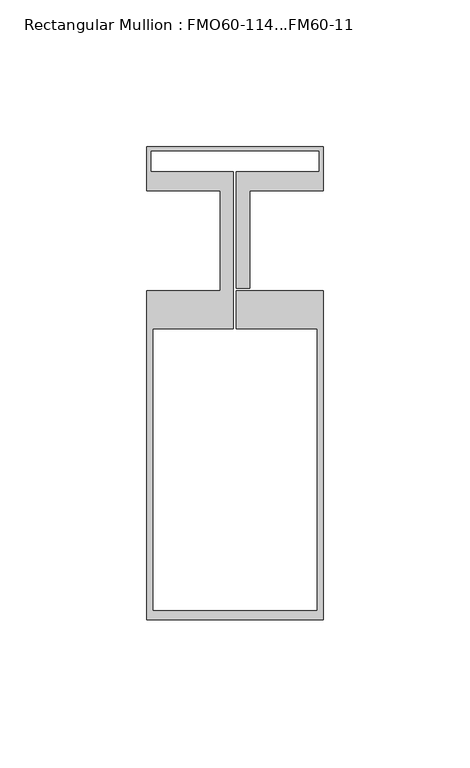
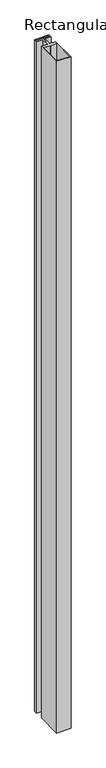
"""IFC4 building model written with IfcOpenShell, lengths in millimetres: member geometry, Rectangular Mullion : FMO60-114...FM60-11."""

from ifc_helpers import new_model, si_unit, frame, origin, place, context, project, spatial, polyline, outline, extrude, source, transform, mapped, element, save


def rectangular_mullion_fmo60_114_fm60_11_d209c6d5(model_context):
    return source(origin(), model_context, "Body", "SweptSolid", [
        extrude(outline(polyline([(-30.0, -16.9999262), (-4.9995097, -16.9999262), (-4.9995097, 17.0000738), (-30.0, 17.0000738), (-30.0, 32.0039178), (30.0, 32.0039178), (30.0, 17.0000738), (5.0004903, 17.0000738), (5.0004903, -16.1999262), (0.5, -16.1999262), (0.5, 23.4439819), (28.7000412, 23.4439819), (28.7000412, 30.7039178), (-28.7000412, 30.7039178), (-28.7000412, 23.4439819), (-0.5, 23.4439819), (-0.5, -29.9945061), (-28.0, -29.9945061), (-28.0, -126.0079738), (28.0, -126.0079738), (28.0, -29.9945061), (0.5, -29.9945061), (0.5, -16.9999262), (30.0, -16.9999262), (30.0, -129.0079738), (-30.0, -129.0079738), (-30.0, -16.9999262)])), frame((0.0, 0.0, -3000.0), z_axis=(0.0, 0.0, 1.0), x_axis=(1.0, 0.0, 0.0)), (0.0, 0.0, 1.0), 3000.0),
    ])


if __name__ == "__main__":
    model = new_model("IFC4")
    model_context = context("Model", 3, world=origin())
    ifc_project = project(units=[si_unit("LENGTHUNIT", "METRE", prefix="MILLI")], contexts=[model_context])
    site = spatial("IfcSite", under=ifc_project)
    building = spatial("IfcBuilding", under=site)
    placement = place(None, origin())
    rectangular_mullion_fmo60_114_fm60_11_shape = rectangular_mullion_fmo60_114_fm60_11_d209c6d5(model_context)
    element("IfcMember", 1, ObjectType="Rectangular Mullion : FMO60-114...FM60-11", at=placement, inside=building, context=model_context, shape_type="MappedRepresentation", body=[
        mapped(rectangular_mullion_fmo60_114_fm60_11_shape, transform((0.0, 0.0, 0.0), x_axis=(1.0, 0.0, 0.0), y_axis=(0.0, 1.0, 0.0), z_axis=(0.0, 0.0, 1.0))),
    ])
    save(model, "model.ifc")
